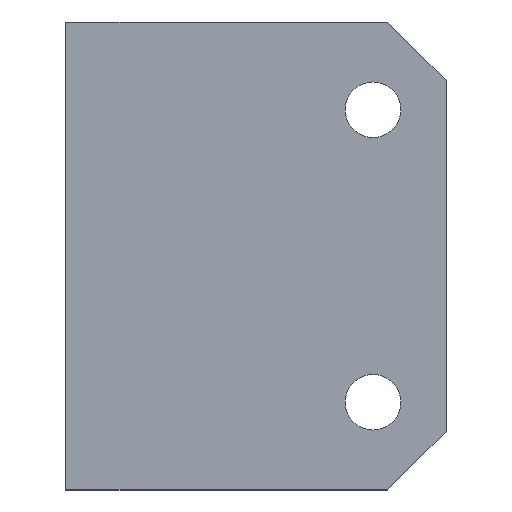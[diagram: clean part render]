
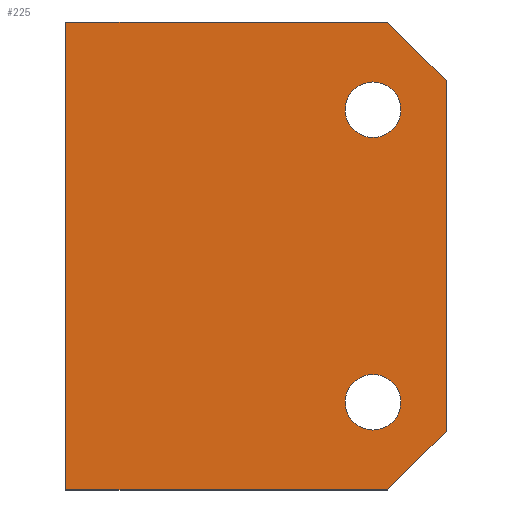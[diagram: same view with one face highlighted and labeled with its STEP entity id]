
A CAD part, top view. The second image highlights one B-rep face of the part: STEP entity #225.
In plain terms, the highlighted planar face has unit normal (0, 0, 1).
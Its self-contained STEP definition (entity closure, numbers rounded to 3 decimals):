
#45=FACE_BOUND('',#76,.T.);
#46=FACE_BOUND('',#77,.T.);
#55=PLANE('',#262);
#65=FACE_OUTER_BOUND('',#75,.T.);
#75=EDGE_LOOP('',(#199,#200,#201,#202,#203,#204));
#76=EDGE_LOOP('',(#205));
#77=EDGE_LOOP('',(#206));
#85=LINE('',#352,#105);
#88=LINE('',#358,#108);
#91=LINE('',#364,#111);
#94=LINE('',#370,#114);
#97=LINE('',#376,#117);
#100=LINE('',#380,#120);
#105=VECTOR('',#290,10.);
#108=VECTOR('',#295,10.);
#111=VECTOR('',#300,10.);
#114=VECTOR('',#305,10.);
#117=VECTOR('',#310,10.);
#120=VECTOR('',#315,10.);
#121=CIRCLE('',#251,4.75);
#123=CIRCLE('',#254,4.75);
#127=VERTEX_POINT('',#334);
#129=VERTEX_POINT('',#340);
#133=VERTEX_POINT('',#349);
#134=VERTEX_POINT('',#351);
#136=VERTEX_POINT('',#357);
#138=VERTEX_POINT('',#363);
#140=VERTEX_POINT('',#369);
#142=VERTEX_POINT('',#375);
#143=EDGE_CURVE('',#127,#127,#121,.T.);
#146=EDGE_CURVE('',#129,#129,#123,.T.);
#151=EDGE_CURVE('',#134,#133,#85,.T.);
#154=EDGE_CURVE('',#136,#134,#88,.T.);
#157=EDGE_CURVE('',#138,#136,#91,.T.);
#160=EDGE_CURVE('',#140,#138,#94,.T.);
#163=EDGE_CURVE('',#142,#140,#97,.T.);
#166=EDGE_CURVE('',#133,#142,#100,.T.);
#199=ORIENTED_EDGE('',*,*,#166,.T.);
#200=ORIENTED_EDGE('',*,*,#163,.T.);
#201=ORIENTED_EDGE('',*,*,#160,.T.);
#202=ORIENTED_EDGE('',*,*,#157,.T.);
#203=ORIENTED_EDGE('',*,*,#154,.T.);
#204=ORIENTED_EDGE('',*,*,#151,.T.);
#205=ORIENTED_EDGE('',*,*,#146,.T.);
#206=ORIENTED_EDGE('',*,*,#143,.T.);
#225=ADVANCED_FACE('',(#65,#45,#46),#55,.T.);
#251=AXIS2_PLACEMENT_3D('',#335,#274,#275);
#254=AXIS2_PLACEMENT_3D('',#341,#281,#282);
#262=AXIS2_PLACEMENT_3D('',#381,#316,#317);
#274=DIRECTION('center_axis',(0.,0.,-1.));
#275=DIRECTION('ref_axis',(-1.,0.,0.));
#281=DIRECTION('center_axis',(0.,0.,-1.));
#282=DIRECTION('ref_axis',(-1.,0.,0.));
#290=DIRECTION('',(0.,1.,0.));
#295=DIRECTION('',(0.707,0.707,0.));
#300=DIRECTION('',(1.,0.,0.));
#305=DIRECTION('',(0.,-1.,0.));
#310=DIRECTION('',(-1.,0.,0.));
#315=DIRECTION('',(-0.707,0.707,0.));
#316=DIRECTION('center_axis',(0.,0.,1.));
#317=DIRECTION('ref_axis',(1.,0.,0.));
#334=CARTESIAN_POINT('',(24.75,-25.,0.25));
#335=CARTESIAN_POINT('Origin',(20.,-25.,0.25));
#340=CARTESIAN_POINT('',(24.75,25.,0.25));
#341=CARTESIAN_POINT('Origin',(20.,25.,0.25));
#349=CARTESIAN_POINT('',(32.5,30.,0.25));
#351=CARTESIAN_POINT('',(32.5,-30.,0.25));
#352=CARTESIAN_POINT('',(32.5,-30.,0.25));
#357=CARTESIAN_POINT('',(22.5,-40.,0.25));
#358=CARTESIAN_POINT('',(22.5,-40.,0.25));
#363=CARTESIAN_POINT('',(-32.5,-40.,0.25));
#364=CARTESIAN_POINT('',(-32.5,-40.,0.25));
#369=CARTESIAN_POINT('',(-32.5,40.,0.25));
#370=CARTESIAN_POINT('',(-32.5,40.,0.25));
#375=CARTESIAN_POINT('',(22.5,40.,0.25));
#376=CARTESIAN_POINT('',(22.5,40.,0.25));
#380=CARTESIAN_POINT('',(32.5,30.,0.25));
#381=CARTESIAN_POINT('Origin',(0.,0.,0.25));
